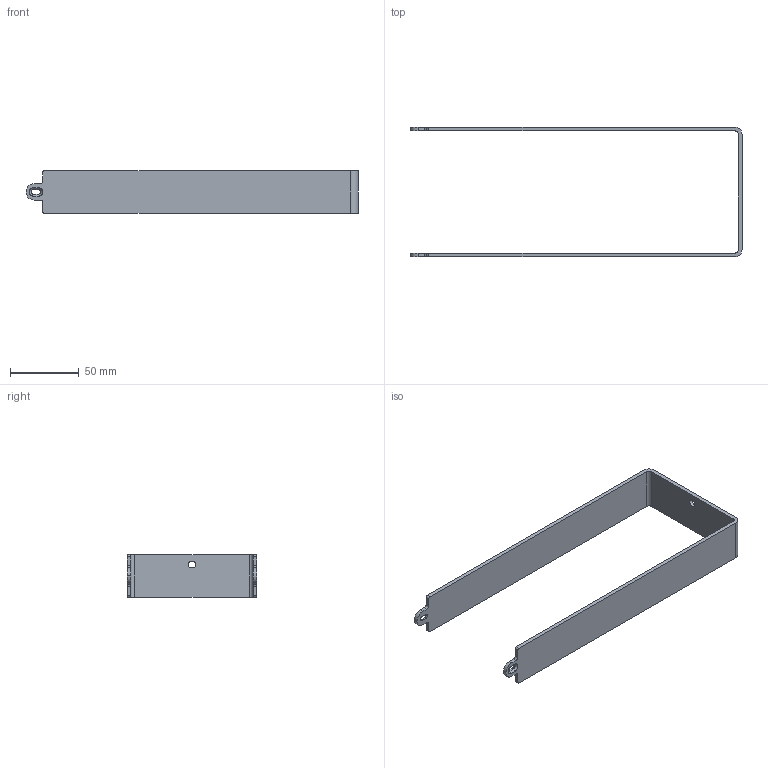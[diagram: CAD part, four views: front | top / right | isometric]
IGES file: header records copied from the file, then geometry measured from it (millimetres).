
Start section:  PTC IGES file: cu_mia-8sl.igs
Global section: file name: cu_mia-8sl.igs; native system: Creo Parametric by Parametric Technology Corporation; preprocessor: 2014000; author: jbuhisan; organization: Unknown; date: 20150708.135629; units: inch
Bounding box: 241.34 x 94.19 x 31 mm (x, y, z)
Surface area: 37379.9 mm2 (no closed solid volume)
Topology: 0 solids, 0 shells, 51 faces, 278 edges, 278 vertices
Faces by surface type: bspline 26, revolution 25
